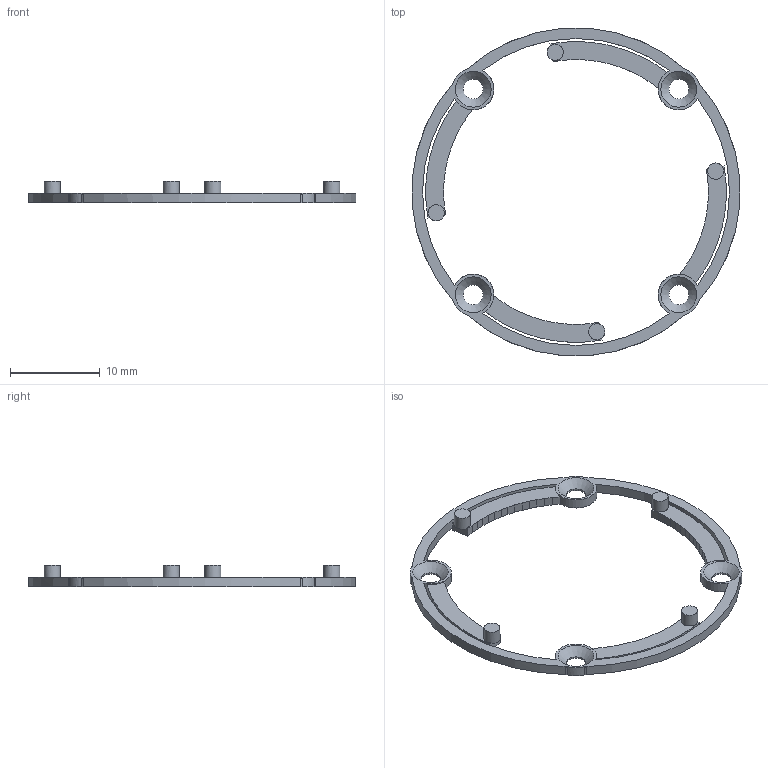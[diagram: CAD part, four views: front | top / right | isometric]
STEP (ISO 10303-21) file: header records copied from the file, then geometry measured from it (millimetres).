
FILE_DESCRIPTION(('Open CASCADE Model'),'2;1');
FILE_NAME('Open CASCADE Shape Model','2026-11-25T01:59:34',('Author'),( 'Open CASCADE'),'Open CASCADE STEP processor 7.9','Open CASCADE 7.9' ,'Unknown');
FILE_SCHEMA(('AUTOMOTIVE_DESIGN { 1 0 10303 214 1 1 1 1 }'));
Length unit declared in the file: millimetre
Products named in the file (1): Open CASCADE STEP translator 7.9 6
Bounding box: 36.48 x 36.48 x 2.45 mm (x, y, z)
Volume: 289.1 mm3; surface area: 970.1 mm2
Topology: 1 solids, 1 shells, 186 faces, 548 edges, 364 vertices
Faces by surface type: plane 158, cylinder 24, cone 4
Full cylindrical faces by diameter (mm): 1.8 x4, 2.2 x4
Entity records: 13775 total; most frequent: CARTESIAN_POINT 4417, DIRECTION 1240, ORIENTED_EDGE 1096, PCURVE 1096, DEFINITIONAL_REPRESENTATION 1096, B_SPLINE_CURVE_WITH_KNOTS 827, LINE 667, VECTOR 667
